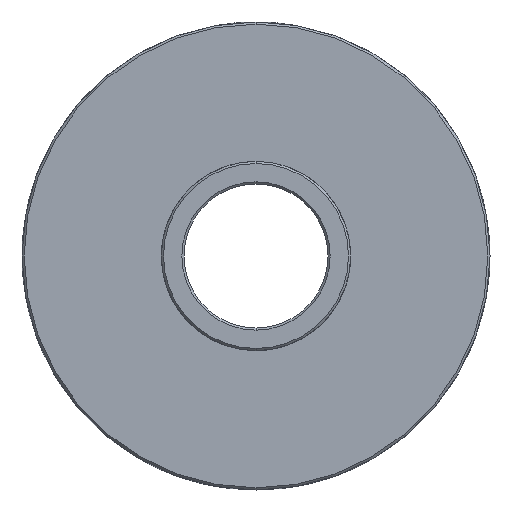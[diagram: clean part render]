
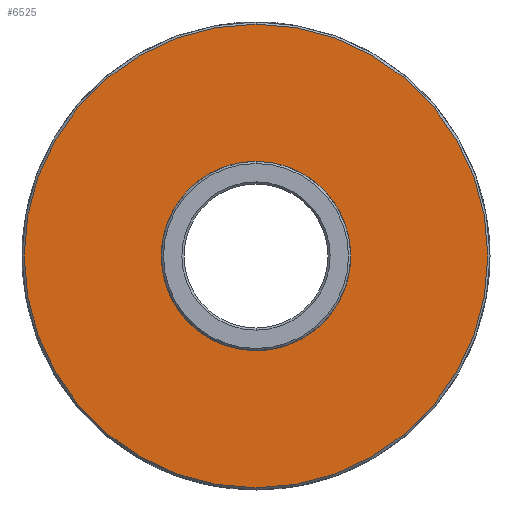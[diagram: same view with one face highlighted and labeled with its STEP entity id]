
A CAD part, front view. The second image highlights one B-rep face of the part: STEP entity #6525.
In plain terms, the highlighted planar face has unit normal (0, -1, 0).
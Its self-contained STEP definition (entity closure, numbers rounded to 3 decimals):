
#249 = AXIS2_PLACEMENT_3D ( 'NONE', #11192, #6808, #2314 ) ;
#802 = CIRCLE ( 'NONE', #8824, 12.25 ) ;
#1443 = DIRECTION ( 'NONE',  ( 0., -1., 0. ) ) ;
#1936 = CARTESIAN_POINT ( 'NONE',  ( 0., 0., -32.2 ) ) ;
#2314 = DIRECTION ( 'NONE',  ( 0., 0., -1. ) ) ;
#2496 = CIRCLE ( 'NONE', #7338, 32.2 ) ;
#3109 = EDGE_CURVE ( 'NONE', #4613, #10801, #4937, .T. ) ;
#3129 = CARTESIAN_POINT ( 'NONE',  ( 0., 0., 0. ) ) ;
#3206 = DIRECTION ( 'NONE',  ( 0., -1., 0. ) ) ;
#3322 = DIRECTION ( 'NONE',  ( 0., 0., 1. ) ) ;
#3439 = CARTESIAN_POINT ( 'NONE',  ( 0., 0., 32.2 ) ) ;
#4178 = AXIS2_PLACEMENT_3D ( 'NONE', #11558, #5257, #4390 ) ;
#4390 = DIRECTION ( 'NONE',  ( 0., 0., 1. ) ) ;
#4482 = EDGE_LOOP ( 'NONE', ( #5031, #4765 ) ) ;
#4613 = VERTEX_POINT ( 'NONE', #3439 ) ;
#4742 = ORIENTED_EDGE ( 'NONE', *, *, #7076, .F. ) ;
#4765 = ORIENTED_EDGE ( 'NONE', *, *, #8059, .T. ) ;
#4937 = CIRCLE ( 'NONE', #6049, 32.2 ) ;
#5031 = ORIENTED_EDGE ( 'NONE', *, *, #3109, .T. ) ;
#5188 = CARTESIAN_POINT ( 'NONE',  ( 0., 0., -12.25 ) ) ;
#5233 = EDGE_LOOP ( 'NONE', ( #10375, #4742 ) ) ;
#5257 = DIRECTION ( 'NONE',  ( 0., 1., 0. ) ) ;
#5822 = DIRECTION ( 'NONE',  ( 0., 0., -1. ) ) ;
#5858 = CIRCLE ( 'NONE', #249, 12.25 ) ;
#6049 = AXIS2_PLACEMENT_3D ( 'NONE', #11426, #8690, #3322 ) ;
#6191 = FACE_OUTER_BOUND ( 'NONE', #4482, .T. ) ;
#6525 = ADVANCED_FACE ( 'NONE', ( #6191, #11340 ), #11393, .F. ) ;
#6808 = DIRECTION ( 'NONE',  ( 0., -1., 0. ) ) ;
#7076 = EDGE_CURVE ( 'NONE', #7285, #8773, #5858, .T. ) ;
#7082 = EDGE_CURVE ( 'NONE', #8773, #7285, #802, .T. ) ;
#7285 = VERTEX_POINT ( 'NONE', #5188 ) ;
#7338 = AXIS2_PLACEMENT_3D ( 'NONE', #11325, #3206, #7803 ) ;
#7803 = DIRECTION ( 'NONE',  ( 0., 0., 1. ) ) ;
#8059 = EDGE_CURVE ( 'NONE', #10801, #4613, #2496, .T. ) ;
#8690 = DIRECTION ( 'NONE',  ( 0., -1., 0. ) ) ;
#8773 = VERTEX_POINT ( 'NONE', #8850 ) ;
#8824 = AXIS2_PLACEMENT_3D ( 'NONE', #3129, #1443, #5822 ) ;
#8850 = CARTESIAN_POINT ( 'NONE',  ( 0., 0., 12.25 ) ) ;
#10375 = ORIENTED_EDGE ( 'NONE', *, *, #7082, .F. ) ;
#10801 = VERTEX_POINT ( 'NONE', #1936 ) ;
#11192 = CARTESIAN_POINT ( 'NONE',  ( 0., 0., 0. ) ) ;
#11325 = CARTESIAN_POINT ( 'NONE',  ( 0., 0., 0. ) ) ;
#11340 = FACE_BOUND ( 'NONE', #5233, .T. ) ;
#11393 = PLANE ( 'NONE',  #4178 ) ;
#11426 = CARTESIAN_POINT ( 'NONE',  ( 0., 0., 0. ) ) ;
#11558 = CARTESIAN_POINT ( 'NONE',  ( 0., 0., 0. ) ) ;
